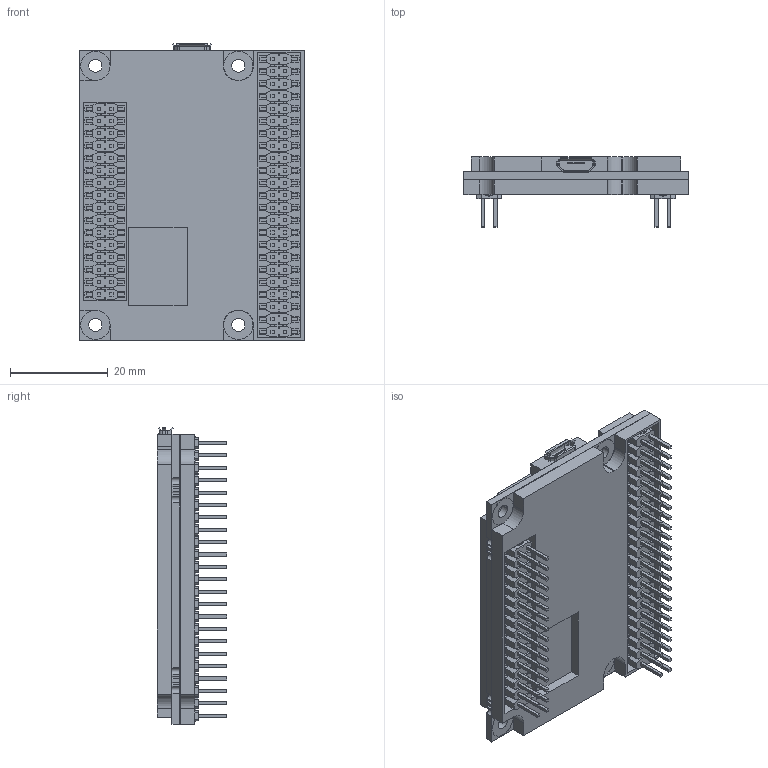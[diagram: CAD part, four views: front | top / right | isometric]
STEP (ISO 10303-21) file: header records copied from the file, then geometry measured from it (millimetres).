
FILE_DESCRIPTION((''),'2;1');
FILE_NAME('EPOS4_POWER_ZUSAMMENBAU_ASM','2016-07-01T',('mmagmma'),(''),'CREO PARAMETRIC BY PTC INC, 2016050','CREO PARAMETRIC BY PTC INC, 2016050','');
FILE_SCHEMA(('CONFIG_CONTROL_DESIGN'));
Products named in the file (28): EPOS4_POWERMODULE_PCB; EPOS4_POWERMODULE_PCB_SITO; EPOS4_POWERMODULE_PCB_SIBO; EXCLUSION_ZONE_TOP; EXCLUSION_ZONE_BOTTOM; USB_MICRO; MOSFET_TDSON-8; IC_PDSO_G56; IC_7X7X1; CAP_C3225; TSM_116_01_L_DV_A_BODY; T_1S6_16__01_16_DV_; TSM_116_01_L_DV_A_ASM; TSM_123_01_L_DV_A_BODY; T_1S6_16__01_23_DV_; TSM_123_01_L_DV_A_ASM; IC_TQFP100-14X14; LED-0606_DUAL_SOCKEL; LED-0606-DUAL_GRUEN; LED-0606-DUAL_ROT; LED-0606-DUAL_ASM; MFP-4; SSOP4; IC_SO-08; IC_TSSOP-16; DROSSEL_5X5X2-8; EPOS4_POWERMODULE_ASM; EPOS4_POWER_ZUSAMMENBAU_ASM
Assembly tree (42 placements, depth 4):
  EPOS4_POWER_ZUSAMMENBAU_ASM
    EPOS4_POWERMODULE_ASM
      EPOS4_POWERMODULE_PCB
      EPOS4_POWERMODULE_PCB_SITO
      EPOS4_POWERMODULE_PCB_SIBO
      EXCLUSION_ZONE_TOP
      EXCLUSION_ZONE_BOTTOM
      USB_MICRO
      MOSFET_TDSON-8  x6
      IC_PDSO_G56
      IC_7X7X1
      CAP_C3225  x10
      TSM_116_01_L_DV_A_ASM
        TSM_116_01_L_DV_A_BODY
        T_1S6_16__01_16_DV_
      TSM_123_01_L_DV_A_ASM
        TSM_123_01_L_DV_A_BODY
        T_1S6_16__01_23_DV_
      IC_TQFP100-14X14
      LED-0606-DUAL_ASM
        LED-0606_DUAL_SOCKEL
        LED-0606-DUAL_GRUEN
        LED-0606-DUAL_ROT
      MFP-4
      SSOP4  x2
      IC_SO-08
      IC_TSSOP-16
      DROSSEL_5X5X2-8
Bounding box: 46 x 14.3 x 60.87 mm (x, y, z)
Volume: 18836.8 mm3; surface area: 33660 mm2
Topology: 64 solids, 64 shells, 6685 faces, 18619 edges, 12214 vertices
Faces by surface type: plane 5829, cylinder 688, bspline 80, sphere 80, cone 8
Entity records: 242239 total; most frequent: CARTESIAN_POINT 35154, ORIENTED_EDGE 33566, DIRECTION 29401, PRESENTATION_STYLE_ASSIGNMENT 16817, EDGE_CURVE 16783, STYLED_ITEM 16780, CURVE_STYLE 16711, VECTOR 16031
